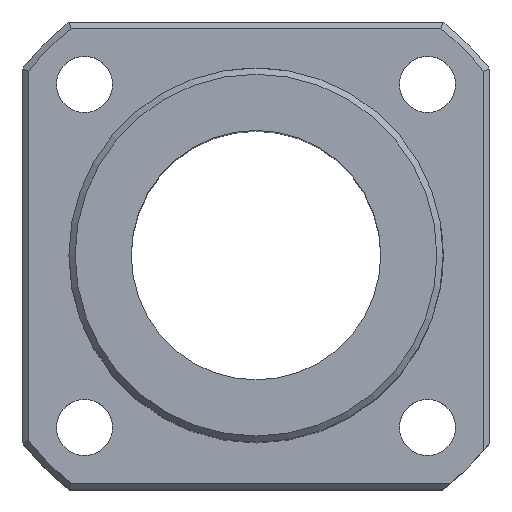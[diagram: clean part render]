
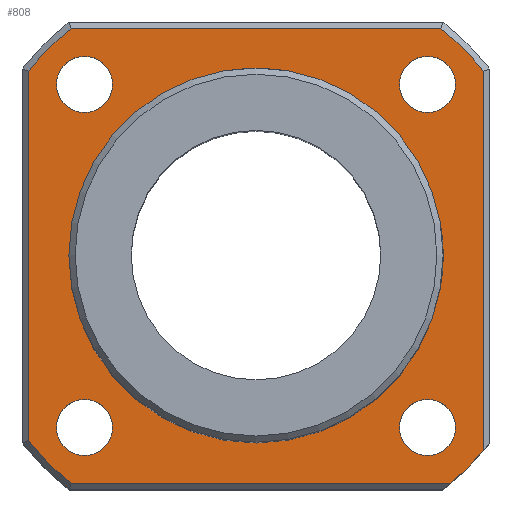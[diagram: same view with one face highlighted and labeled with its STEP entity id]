
A CAD part, top view. The second image highlights one B-rep face of the part: STEP entity #808.
In plain terms, the highlighted planar face has unit normal (0, 0, 1).
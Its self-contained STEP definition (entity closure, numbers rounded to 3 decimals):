
#531=CARTESIAN_POINT('',(31.173,-36.5,20.0));
#532=VERTEX_POINT('',#531);
#540=CARTESIAN_POINT('',(-29.61,-36.5,20.0));
#541=VERTEX_POINT('',#540);
#542=CARTESIAN_POINT('',(31.173,-36.5,20.0));
#543=DIRECTION('',(-1.0,0.0,0.0));
#544=VECTOR('',#543,60.783);
#545=LINE('',#542,#544);
#546=EDGE_CURVE('',#532,#541,#545,.T.);
#571=CARTESIAN_POINT('',(-36.5,-29.61,20.0));
#572=VERTEX_POINT('',#571);
#573=CARTESIAN_POINT('',(0.0,0.0,20.0));
#574=DIRECTION('',(0.0,0.0,-1.0));
#575=DIRECTION('',(-1.0,0.0,0.0));
#576=AXIS2_PLACEMENT_3D('',#573,#574,#575);
#577=CIRCLE('',#576,47.);
#578=EDGE_CURVE('',#541,#572,#577,.T.);
#603=CARTESIAN_POINT('',(-36.5,29.61,20.0));
#604=VERTEX_POINT('',#603);
#605=CARTESIAN_POINT('',(-36.5,-29.61,20.0));
#606=DIRECTION('',(0.0,1.0,0.0));
#607=VECTOR('',#606,59.22);
#608=LINE('',#605,#607);
#609=EDGE_CURVE('',#572,#604,#608,.T.);
#628=CARTESIAN_POINT('',(-29.61,36.5,20.0));
#629=VERTEX_POINT('',#628);
#630=CARTESIAN_POINT('',(0.0,0.0,20.0));
#631=DIRECTION('',(0.0,0.0,-1.0));
#632=DIRECTION('',(-1.0,0.0,0.0));
#633=AXIS2_PLACEMENT_3D('',#630,#631,#632);
#634=CIRCLE('',#633,47.);
#635=EDGE_CURVE('',#604,#629,#634,.T.);
#654=CARTESIAN_POINT('',(29.61,36.5,20.0));
#655=VERTEX_POINT('',#654);
#656=CARTESIAN_POINT('',(-29.61,36.5,20.0));
#657=DIRECTION('',(1.0,0.0,0.0));
#658=VECTOR('',#657,59.22);
#659=LINE('',#656,#658);
#660=EDGE_CURVE('',#629,#655,#659,.T.);
#679=CARTESIAN_POINT('',(36.5,29.61,20.0));
#680=VERTEX_POINT('',#679);
#681=CARTESIAN_POINT('',(0.0,0.0,20.0));
#682=DIRECTION('',(0.0,0.0,-1.0));
#683=DIRECTION('',(1.0,0.0,0.0));
#684=AXIS2_PLACEMENT_3D('',#681,#682,#683);
#685=CIRCLE('',#684,47.);
#686=EDGE_CURVE('',#655,#680,#685,.T.);
#705=CARTESIAN_POINT('',(36.5,-31.173,20.0));
#706=VERTEX_POINT('',#705);
#723=CARTESIAN_POINT('',(36.5,29.61,20.0));
#724=DIRECTION('',(0.0,-1.0,0.0));
#725=VECTOR('',#724,60.783);
#726=LINE('',#723,#725);
#727=EDGE_CURVE('',#680,#706,#726,.T.);
#732=CARTESIAN_POINT('',(0.,0.,20.0));
#733=DIRECTION('',(0.0,0.0,1.0));
#734=DIRECTION('',(1.0,0.0,0.0));
#735=AXIS2_PLACEMENT_3D('',#732,#733,#734);
#736=PLANE('',#735);
#737=ORIENTED_EDGE('',*,*,#727,.F.);
#738=ORIENTED_EDGE('',*,*,#686,.F.);
#739=ORIENTED_EDGE('',*,*,#660,.F.);
#740=ORIENTED_EDGE('',*,*,#635,.F.);
#741=ORIENTED_EDGE('',*,*,#609,.F.);
#742=ORIENTED_EDGE('',*,*,#578,.F.);
#743=ORIENTED_EDGE('',*,*,#546,.F.);
#744=CARTESIAN_POINT('',(0.0,0.0,20.0));
#745=DIRECTION('',(0.0,0.0,-1.0));
#746=DIRECTION('',(1.0,0.0,0.0));
#747=AXIS2_PLACEMENT_3D('',#744,#745,#746);
#748=CIRCLE('',#747,48.);
#749=EDGE_CURVE('',#706,#532,#748,.T.);
#750=ORIENTED_EDGE('',*,*,#749,.F.);
#751=EDGE_LOOP('',(#737,#738,#739,#740,#741,#742,#743,#750));
#752=FACE_OUTER_BOUND('',#751,.T.);
#753=CARTESIAN_POINT('',(30.0,0.,20.0));
#754=VERTEX_POINT('',#753);
#755=CARTESIAN_POINT('',(0.0,0.0,20.0));
#756=DIRECTION('',(0.0,0.0,-1.0));
#757=DIRECTION('',(-1.0,0.0,0.0));
#758=AXIS2_PLACEMENT_3D('',#755,#756,#757);
#759=CIRCLE('',#758,30.0);
#760=EDGE_CURVE('',#754,#754,#759,.T.);
#761=ORIENTED_EDGE('',*,*,#760,.T.);
#762=EDGE_LOOP('',(#761));
#763=FACE_BOUND('',#762,.T.);
#764=CARTESIAN_POINT('',(-32.0,27.5,20.0));
#765=VERTEX_POINT('',#764);
#766=CARTESIAN_POINT('',(-27.5,27.5,20.0));
#767=DIRECTION('',(0.0,0.0,-1.0));
#768=DIRECTION('',(1.0,0.0,0.0));
#769=AXIS2_PLACEMENT_3D('',#766,#767,#768);
#770=CIRCLE('',#769,4.5);
#771=EDGE_CURVE('',#765,#765,#770,.T.);
#772=ORIENTED_EDGE('',*,*,#771,.T.);
#773=EDGE_LOOP('',(#772));
#774=FACE_BOUND('',#773,.T.);
#775=CARTESIAN_POINT('',(23.,27.5,20.0));
#776=VERTEX_POINT('',#775);
#777=CARTESIAN_POINT('',(27.5,27.5,20.0));
#778=DIRECTION('',(0.0,0.0,-1.0));
#779=DIRECTION('',(1.0,0.0,0.0));
#780=AXIS2_PLACEMENT_3D('',#777,#778,#779);
#781=CIRCLE('',#780,4.5);
#782=EDGE_CURVE('',#776,#776,#781,.T.);
#783=ORIENTED_EDGE('',*,*,#782,.T.);
#784=EDGE_LOOP('',(#783));
#785=FACE_BOUND('',#784,.T.);
#786=CARTESIAN_POINT('',(-32.0,-27.5,20.0));
#787=VERTEX_POINT('',#786);
#788=CARTESIAN_POINT('',(-27.5,-27.5,20.0));
#789=DIRECTION('',(0.0,0.0,-1.0));
#790=DIRECTION('',(1.0,0.0,0.0));
#791=AXIS2_PLACEMENT_3D('',#788,#789,#790);
#792=CIRCLE('',#791,4.5);
#793=EDGE_CURVE('',#787,#787,#792,.T.);
#794=ORIENTED_EDGE('',*,*,#793,.T.);
#795=EDGE_LOOP('',(#794));
#796=FACE_BOUND('',#795,.T.);
#797=CARTESIAN_POINT('',(23.,-27.5,20.0));
#798=VERTEX_POINT('',#797);
#799=CARTESIAN_POINT('',(27.5,-27.5,20.0));
#800=DIRECTION('',(0.0,0.0,-1.0));
#801=DIRECTION('',(1.0,0.0,0.0));
#802=AXIS2_PLACEMENT_3D('',#799,#800,#801);
#803=CIRCLE('',#802,4.5);
#804=EDGE_CURVE('',#798,#798,#803,.T.);
#805=ORIENTED_EDGE('',*,*,#804,.T.);
#806=EDGE_LOOP('',(#805));
#807=FACE_BOUND('',#806,.T.);
#808=ADVANCED_FACE('',(#752,#763,#774,#785,#796,#807),#736,.T.);
